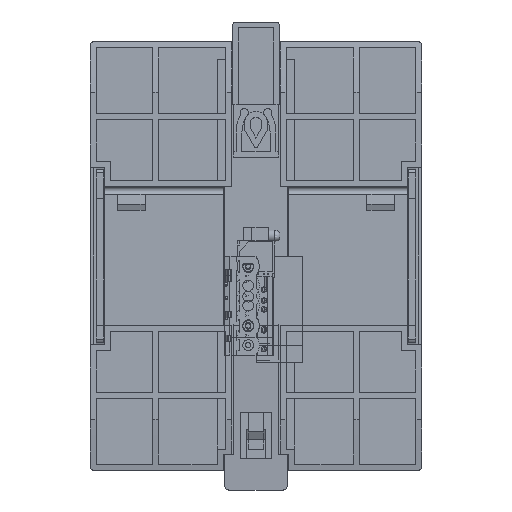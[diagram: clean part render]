
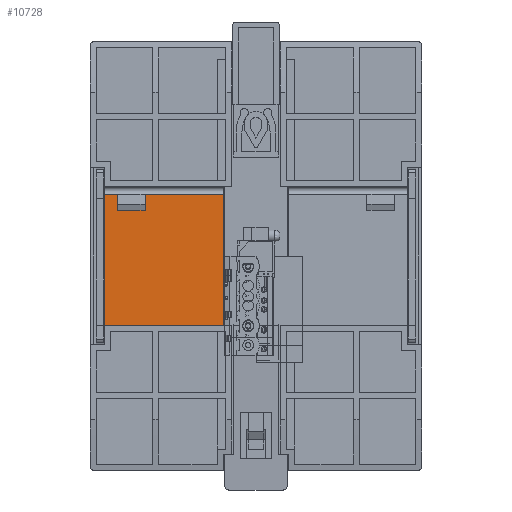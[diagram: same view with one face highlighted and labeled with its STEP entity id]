
A CAD part, front view. The second image highlights one B-rep face of the part: STEP entity #10728.
In plain terms, the highlighted planar face has unit normal (0, -1, 0).
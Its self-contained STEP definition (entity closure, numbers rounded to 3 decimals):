
#10728 = ADVANCED_FACE( ' TRM_SRF', ( #22422 ), #22423, .T. );
#22422 = FACE_OUTER_BOUND( '', #38707, .T. );
#22423 = PLANE( '', #38708 );
#38707 = EDGE_LOOP( '', ( #66266, #66267, #66268, #66269, #66270, #66271, #66272, #66273 ) );
#38708 = AXIS2_PLACEMENT_3D( '', #66274, #66275, #66276 );
#66266 = ORIENTED_EDGE( '', *, *, #78567, .T. );
#66267 = ORIENTED_EDGE( '', *, *, #81321, .F. );
#66268 = ORIENTED_EDGE( '', *, *, #78162, .T. );
#66269 = ORIENTED_EDGE( '', *, *, #81322, .T. );
#66270 = ORIENTED_EDGE( '', *, *, #72584, .T. );
#66271 = ORIENTED_EDGE( '', *, *, #81323, .F. );
#66272 = ORIENTED_EDGE( '', *, *, #71559, .T. );
#66273 = ORIENTED_EDGE( '', *, *, #72791, .T. );
#66274 = CARTESIAN_POINT( '', ( 40.352, 5., -18.42 ) );
#66275 = DIRECTION( '', ( 0., -1., 0. ) );
#66276 = DIRECTION( '', ( 0., 0., 1. ) );
#71559 = EDGE_CURVE( '', #84407, #84405, #84408, .F. );
#72584 = EDGE_CURVE( '', #86255, #86253, #86256, .T. );
#72791 = EDGE_CURVE( '', #84405, #86615, #86617, .F. );
#78162 = EDGE_CURVE( '', #95018, #95016, #95019, .F. );
#78567 = EDGE_CURVE( '', #86615, #95571, #95573, .T. );
#81321 = EDGE_CURVE( '', #95018, #95571, #98930, .T. );
#81322 = EDGE_CURVE( '', #95016, #86255, #98931, .T. );
#81323 = EDGE_CURVE( '', #84407, #86253, #98932, .T. );
#84405 = VERTEX_POINT( '', #101432 );
#84407 = VERTEX_POINT( '', #101435 );
#84408 = LINE( '', #101436, #101437 );
#86253 = VERTEX_POINT( '', #104140 );
#86255 = VERTEX_POINT( '', #104143 );
#86256 = LINE( '', #104144, #104145 );
#86615 = VERTEX_POINT( '', #104651 );
#86617 = LINE( '', #104654, #104655 );
#95016 = VERTEX_POINT( '', #118219 );
#95018 = VERTEX_POINT( '', #118222 );
#95019 = LINE( '', #118223, #118224 );
#95571 = VERTEX_POINT( '', #119074 );
#95573 = LINE( '', #119076, #119077 );
#98930 = LINE( '', #124392, #124393 );
#98931 = LINE( '', #124394, #124395 );
#98932 = LINE( '', #124396, #124397 );
#101432 = CARTESIAN_POINT( '', ( -38.8, 5., -17.75 ) );
#101435 = CARTESIAN_POINT( '', ( -38.8, 5., 15.75 ) );
#101436 = CARTESIAN_POINT( '', ( -38.8, 5., -18.42 ) );
#101437 = VECTOR( '', #126052, 1000. );
#104140 = CARTESIAN_POINT( '', ( -35.45, 5., 15.75 ) );
#104143 = CARTESIAN_POINT( '', ( -35.45, 5., 11.75 ) );
#104144 = CARTESIAN_POINT( '', ( -35.45, 5., -18.42 ) );
#104145 = VECTOR( '', #127112, 1000. );
#104651 = CARTESIAN_POINT( '', ( -8.4, 5., -17.75 ) );
#104654 = CARTESIAN_POINT( '', ( 40.352, 5., -17.75 ) );
#104655 = VECTOR( '', #127331, 1000. );
#118219 = CARTESIAN_POINT( '', ( -28.45, 5., 11.75 ) );
#118222 = CARTESIAN_POINT( '', ( -28.45, 5., 15.75 ) );
#118223 = CARTESIAN_POINT( '', ( -28.45, 5., -18.42 ) );
#118224 = VECTOR( '', #132492, 1000. );
#119074 = CARTESIAN_POINT( '', ( -8.4, 5., 15.75 ) );
#119076 = CARTESIAN_POINT( '', ( -8.4, 5., -18.42 ) );
#119077 = VECTOR( '', #132857, 1000. );
#124392 = CARTESIAN_POINT( '', ( -24.211, 5., 15.75 ) );
#124393 = VECTOR( '', #135080, 1000. );
#124394 = CARTESIAN_POINT( '', ( 40.352, 5., 11.75 ) );
#124395 = VECTOR( '', #135081, 1000. );
#124396 = CARTESIAN_POINT( '', ( -24.211, 5., 15.75 ) );
#124397 = VECTOR( '', #135082, 1000. );
#126052 = DIRECTION( '', ( 0., 0., 1. ) );
#127112 = DIRECTION( '', ( 0., 0., 1. ) );
#127331 = DIRECTION( '', ( -1., 0., 0. ) );
#132492 = DIRECTION( '', ( 0., 0., 1. ) );
#132857 = DIRECTION( '', ( 0., 0., 1. ) );
#135080 = DIRECTION( '', ( 1., 0., 0. ) );
#135081 = DIRECTION( '', ( -1., 0., 0. ) );
#135082 = DIRECTION( '', ( 1., 0., 0. ) );
